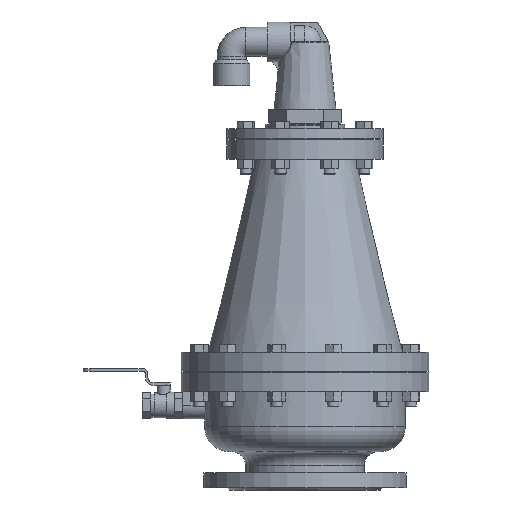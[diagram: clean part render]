
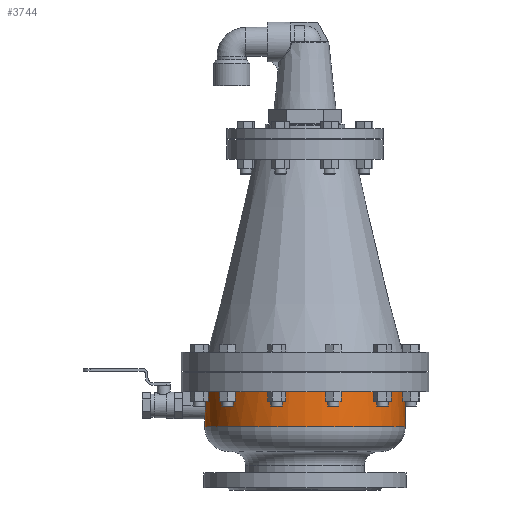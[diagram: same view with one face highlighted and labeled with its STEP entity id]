
A CAD part, left-side view. The second image highlights one B-rep face of the part: STEP entity #3744.
In plain terms, the highlighted cylindrical face has radius 141 mm (diameter 282 mm), a full revolution.
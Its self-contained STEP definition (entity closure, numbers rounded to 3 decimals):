
#3744=ADVANCED_FACE('',(#8379,#8381),#8383,.T.);
#8379=FACE_BOUND('',#8380,.T.);
#8380=EDGE_LOOP('',(#12003,#12004,#12005,#12006,#12007));
#8381=FACE_OUTER_BOUND('',#8382,.T.);
#8382=EDGE_LOOP('',(#12008));
#8383=CYLINDRICAL_SURFACE('',#8384,141.);
#8384=AXIS2_PLACEMENT_3D('',#8385,#8386,#8387);
#8385=CARTESIAN_POINT('',(0.,0.,138.));
#8386=DIRECTION('',(0.,0.,-1.));
#8387=DIRECTION('',(-1.,0.,0.));
#12003=ORIENTED_EDGE('',*,*,#13676,.T.);
#12004=ORIENTED_EDGE('',*,*,#13675,.T.);
#12005=ORIENTED_EDGE('',*,*,#13914,.F.);
#12006=ORIENTED_EDGE('',*,*,#13917,.F.);
#12007=ORIENTED_EDGE('',*,*,#13918,.F.);
#12008=ORIENTED_EDGE('',*,*,#13919,.F.);
#13675=EDGE_CURVE('',#15734,#15731,#15735,.T.);
#13676=EDGE_CURVE('',#15736,#15734,#15737,.T.);
#13914=EDGE_CURVE('',#16097,#15731,#16098,.F.);
#13917=EDGE_CURVE('',#16102,#16097,#16103,.T.);
#13918=EDGE_CURVE('',#15736,#16102,#16104,.T.);
#13919=EDGE_CURVE('',#16105,#16105,#16106,.T.);
#15731=VERTEX_POINT('',#20488);
#15734=VERTEX_POINT('',#20493);
#15735=CIRCLE('',#20494,141.);
#15736=VERTEX_POINT('',#20498);
#15737=CIRCLE('',#20499,141.);
#16097=VERTEX_POINT('',#21337);
#16098=LINE('',#21338,#21339);
#16102=VERTEX_POINT('',#21348);
#16103=B_SPLINE_CURVE_WITH_KNOTS('',3,
(#21349,#21350,#21351,#21352,#21353,#21354,#21355,#21356,#21357,#21358,#21359,#21360,
#21361,#21362,#21363,#21364,#21365,#21366,#21367,#21368,#21369,#21370,#21371,#21372,
#21373,#21374,#21375,#21376,#21377,#21378,#21379,#21380,#21381,#21382,#21383,#21384,
#21385,#21386,#21387,#21388,#21389,#21390,#21391,#21392,#21393,#21394,#21395,#21396,
#21397,#21398,#21399,#21400,#21401,#21402,#21403,#21404,#21405),
.UNSPECIFIED.,.F.,.F.,
(4,1,1,1,1,1,1,1,1,1,1,1,1,1,1,1,1,1,1,1,1,1,1,1,1,1,1,1,1,1,1,1,1,1,1,1,1,1,1,1,
1,1,1,1,1,1,1,1,1,1,1,1,1,1,4),
(0.,0.012,0.029,0.051,0.079,0.104,
0.126,0.149,0.172,0.196,0.22,
0.243,0.266,0.283,0.3,0.315,
0.331,0.351,0.375,0.403,0.426,
0.444,0.457,0.47,0.482,0.495,
0.5,0.506,0.517,0.528,0.537,
0.552,0.568,0.585,0.599,0.613,
0.632,0.65,0.668,0.683,0.697,
0.712,0.727,0.743,0.761,0.785,
0.814,0.847,0.877,0.905,0.93,
0.95,0.967,0.983,1.),
.UNSPECIFIED.);
#16104=LINE('',#21406,#21407);
#16105=VERTEX_POINT('',#21409);
#16106=CIRCLE('',#21410,141.);
#20488=CARTESIAN_POINT('',(-19.,139.714,138.));
#20493=CARTESIAN_POINT('',(-141.,0.,138.));
#20494=AXIS2_PLACEMENT_3D('',#20495,#20496,#20497);
#20495=CARTESIAN_POINT('',(0.,0.,138.));
#20496=DIRECTION('',(0.,0.,-1.));
#20497=DIRECTION('',(-1.,0.,0.));
#20498=CARTESIAN_POINT('',(19.,139.714,138.));
#20499=AXIS2_PLACEMENT_3D('',#20500,#20501,#20502);
#20500=CARTESIAN_POINT('',(0.,0.,138.));
#20501=DIRECTION('',(0.,0.,-1.));
#20502=DIRECTION('',(0.135,0.991,0.));
#21337=CARTESIAN_POINT('',(-19.,139.714,119.));
#21338=CARTESIAN_POINT('',(-19.,139.714,138.));
#21339=VECTOR('',#21340,1.);
#21340=DIRECTION('',(0.,0.,-1.));
#21348=CARTESIAN_POINT('',(19.,139.714,119.));
#21349=CARTESIAN_POINT('',(19.,139.714,119.));
#21350=CARTESIAN_POINT('',(19.,139.714,118.753));
#21351=CARTESIAN_POINT('',(18.989,139.716,118.168));
#21352=CARTESIAN_POINT('',(18.921,139.725,117.148));
#21353=CARTESIAN_POINT('',(18.753,139.747,115.825));
#21354=CARTESIAN_POINT('',(18.448,139.788,114.364));
#21355=CARTESIAN_POINT('',(18.027,139.843,112.946));
#21356=CARTESIAN_POINT('',(17.541,139.905,111.658));
#21357=CARTESIAN_POINT('',(16.978,139.975,110.433));
#21358=CARTESIAN_POINT('',(16.302,140.055,109.207));
#21359=CARTESIAN_POINT('',(15.529,140.143,108.022));
#21360=CARTESIAN_POINT('',(14.669,140.236,106.897));
#21361=CARTESIAN_POINT('',(13.738,140.33,105.851));
#21362=CARTESIAN_POINT('',(12.833,140.416,104.972));
#21363=CARTESIAN_POINT('',(11.981,140.491,104.243));
#21364=CARTESIAN_POINT('',(11.208,140.555,103.648));
#21365=CARTESIAN_POINT('',(10.422,140.615,103.104));
#21366=CARTESIAN_POINT('',(9.55,140.677,102.563));
#21367=CARTESIAN_POINT('',(8.505,140.745,101.993));
#21368=CARTESIAN_POINT('',(7.203,140.818,101.395));
#21369=CARTESIAN_POINT('',(5.806,140.883,100.888));
#21370=CARTESIAN_POINT('',(4.495,140.93,100.526));
#21371=CARTESIAN_POINT('',(3.45,140.959,100.308));
#21372=CARTESIAN_POINT('',(2.586,140.977,100.171));
#21373=CARTESIAN_POINT('',(1.82,140.989,100.082));
#21374=CARTESIAN_POINT('',(1.067,140.997,100.025));
#21375=CARTESIAN_POINT('',(0.462,141.,100.003));
#21376=CARTESIAN_POINT('',(-0.017,141.,99.999));
#21377=CARTESIAN_POINT('',(-0.47,141.,100.003));
#21378=CARTESIAN_POINT('',(-1.018,140.997,100.024));
#21379=CARTESIAN_POINT('',(-1.635,140.991,100.067));
#21380=CARTESIAN_POINT('',(-2.317,140.982,100.137));
#21381=CARTESIAN_POINT('',(-3.106,140.967,100.248));
#21382=CARTESIAN_POINT('',(-4.034,140.943,100.424));
#21383=CARTESIAN_POINT('',(-4.941,140.914,100.646));
#21384=CARTESIAN_POINT('',(-5.81,140.881,100.904));
#21385=CARTESIAN_POINT('',(-6.695,140.842,101.21));
#21386=CARTESIAN_POINT('',(-7.645,140.794,101.594));
#21387=CARTESIAN_POINT('',(-8.639,140.736,102.066));
#21388=CARTESIAN_POINT('',(-9.528,140.679,102.552));
#21389=CARTESIAN_POINT('',(-10.328,140.622,103.044));
#21390=CARTESIAN_POINT('',(-11.051,140.567,103.536));
#21391=CARTESIAN_POINT('',(-11.761,140.509,104.068));
#21392=CARTESIAN_POINT('',(-12.466,140.448,104.652));
#21393=CARTESIAN_POINT('',(-13.176,140.384,105.299));
#21394=CARTESIAN_POINT('',(-13.98,140.306,106.113));
#21395=CARTESIAN_POINT('',(-14.905,140.211,107.18));
#21396=CARTESIAN_POINT('',(-15.915,140.1,108.566));
#21397=CARTESIAN_POINT('',(-16.843,139.991,110.141));
#21398=CARTESIAN_POINT('',(-17.603,139.897,111.779));
#21399=CARTESIAN_POINT('',(-18.158,139.826,113.333));
#21400=CARTESIAN_POINT('',(-18.536,139.776,114.752));
#21401=CARTESIAN_POINT('',(-18.766,139.746,115.957));
#21402=CARTESIAN_POINT('',(-18.904,139.727,117.014));
#21403=CARTESIAN_POINT('',(-18.982,139.716,118.));
#21404=CARTESIAN_POINT('',(-19.,139.714,118.665));
#21405=CARTESIAN_POINT('',(-19.,139.714,119.));
#21406=CARTESIAN_POINT('',(19.,139.714,138.));
#21407=VECTOR('',#21408,1.);
#21408=DIRECTION('',(0.,0.,-1.));
#21409=CARTESIAN_POINT('',(-141.,0.,89.035));
#21410=AXIS2_PLACEMENT_3D('',#21411,#21412,#21413);
#21411=CARTESIAN_POINT('',(0.,0.,89.035));
#21412=DIRECTION('',(0.,0.,-1.));
#21413=DIRECTION('',(-1.,0.,0.));
